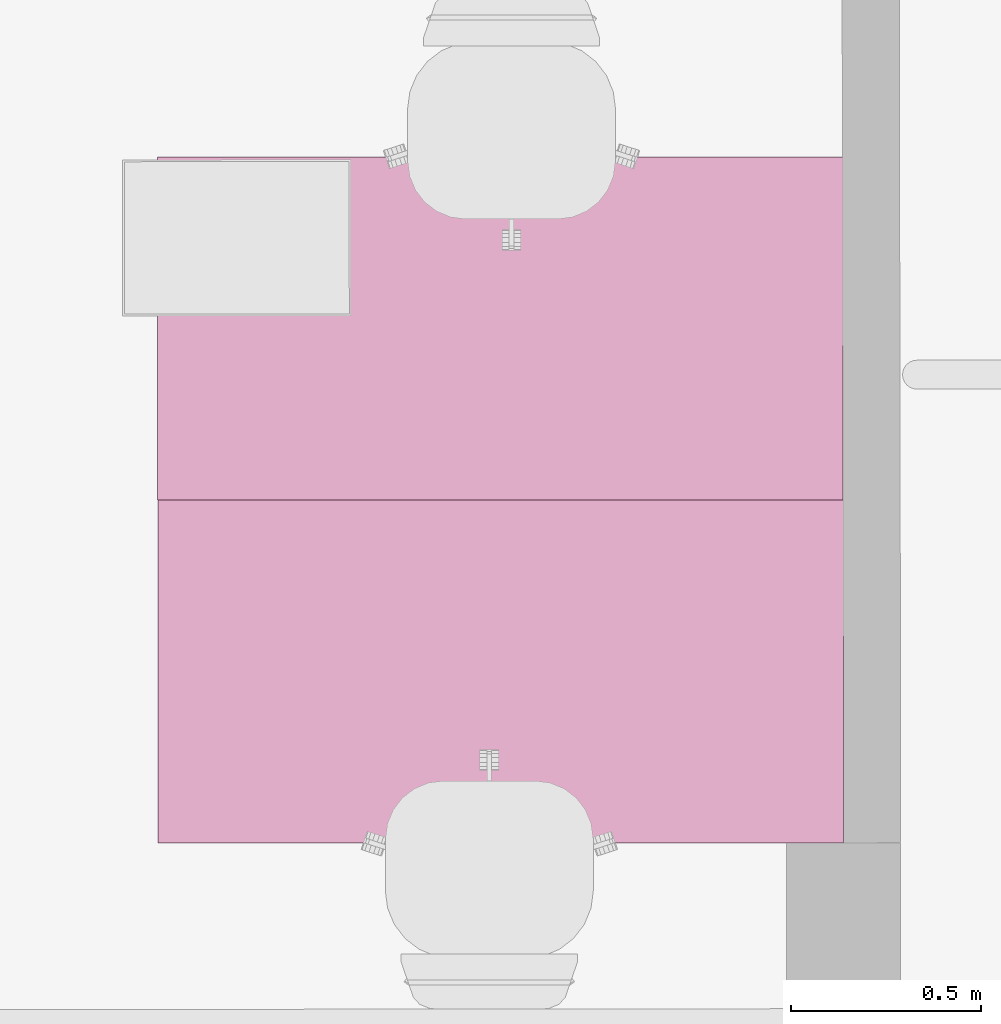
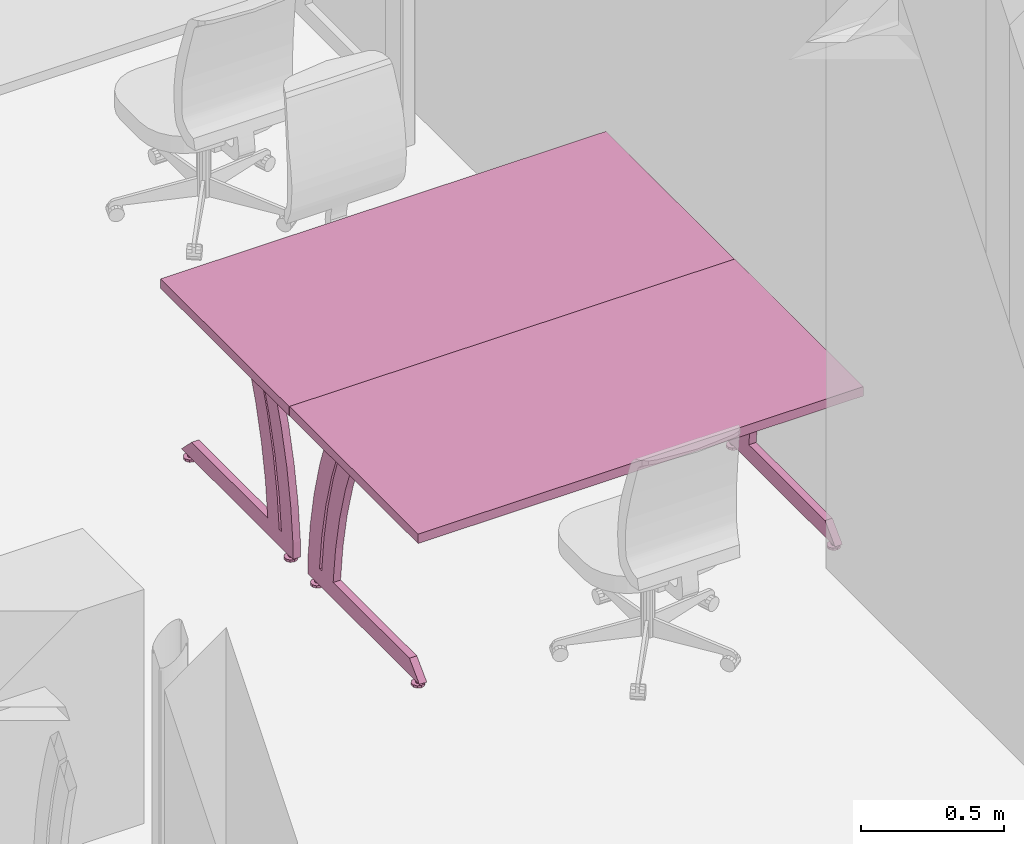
# One storey, part 111 of 128: 2 furnishings.
"""IFC2X3 building model written with IfcOpenShell, lengths in metres."""

from ifc_helpers import new_model, entity, si_unit, converted_unit, derived_unit, direction, frame, origin, place, context, subcontext, project, spatial, faceted_brep, source, transform, mapped, material, type_object, type_shapes, element, save


model = new_model("IFC2X3")

# Units and contexts
model_context = context("Model", 3, precision=1e-05, world=origin(), true_north=direction((6.123031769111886e-17, 1.0)))
body_context = subcontext(model_context, "Body", "Model", "MODEL_VIEW")
ifc_project = project(units=[si_unit("LENGTHUNIT", "METRE"), si_unit("AREAUNIT", "SQUARE_METRE"), converted_unit("PLANEANGLEUNIT", "DEGREE", entity("IfcPlaneAngleMeasure", 0.017453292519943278), si_unit("PLANEANGLEUNIT", "RADIAN"), dimensions=[0, 0, 0, 0, 0, 0, 0]), derived_unit("THERMALTRANSMITTANCEUNIT", [(si_unit("MASSUNIT", "GRAM", prefix="KILO"), 1), (si_unit("THERMODYNAMICTEMPERATUREUNIT", "KELVIN"), -1), (si_unit("TIMEUNIT", "SECOND"), -3)])], contexts=[model_context])

# Site, building, storey
site_placement = place(None, origin())
site = spatial("IfcSite", under=ifc_project, at=site_placement, Name="Default", CompositionType="ELEMENT")
building_placement = place(site_placement, origin())
building = spatial("IfcBuilding", under=site, at=building_placement, CompositionType="ELEMENT")
storey_placement = place(building_placement, origin())
storey = spatial("IfcBuildingStorey", under=building, at=storey_placement, Name="00_RDC CAF", CompositionType="ELEMENT", Elevation=2.4982504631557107e-13)

# Furnishings
ifc_material = material(Name="ARC - Mo - Blanc")
furniture_type = type_object("IfcFurnitureType", Name="Mo_Bureau:Mo_Bureau_1800x900mm", AssemblyPlace="NOTDEFINED", material=ifc_material)
shared_shape = source(origin(), body_context, "Body", "Brep", [
    faceted_brep([(0.05999999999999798, -0.7962325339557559, 0.0), (0.03622358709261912, -0.7885071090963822, 0.0), (0.0407644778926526, -0.7822571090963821, 0.0), (0.045305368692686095, -0.7760071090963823, 0.0), (0.05265268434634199, -0.7736198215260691, 0.0), (0.05999999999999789, -0.7712325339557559, 0.0), (0.0673473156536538, -0.7736198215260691, 0.0), (0.03622358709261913, -0.7962325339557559, 0.0), (0.03622358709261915, -0.8039579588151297, 0.0), (0.040764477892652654, -0.8102079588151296, 0.0), (0.04530536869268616, -0.8164579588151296, 0.0), (0.052652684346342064, -0.8188452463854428, 0.0), (0.05999999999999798, -0.8212325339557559, 0.0), (0.07469463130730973, -0.7760071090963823, 0.0), (0.07923552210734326, -0.7822571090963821, 0.0), (0.08377641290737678, -0.7885071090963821, 0.0), (0.08377641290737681, -0.7962325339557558, 0.0), (0.06734731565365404, -0.8188452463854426, 0.0), (0.07469463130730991, -0.8164579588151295, 0.0), (0.0792355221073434, -0.8102079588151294, 0.0), (0.08377641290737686, -0.8039579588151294, 0.0), (0.05999999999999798, -0.7962325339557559, 0.024999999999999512), (0.059999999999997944, -0.7862325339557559, 0.024999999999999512), (0.05133974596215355, -0.791232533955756, 0.024999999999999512), (0.05133974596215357, -0.801232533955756, 0.024999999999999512), (0.05999999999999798, -0.8062325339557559, 0.024999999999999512), (0.06866025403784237, -0.7912325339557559, 0.024999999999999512), (0.06866025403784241, -0.8012325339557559, 0.024999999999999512), (0.05133974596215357, -0.801232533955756, 0.01000000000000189), (0.05999999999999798, -0.8062325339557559, 0.01000000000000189), (0.05133974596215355, -0.791232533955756, 0.01000000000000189), (0.05999999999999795, -0.7862325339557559, 0.01000000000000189), (0.06866025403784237, -0.7912325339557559, 0.01000000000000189), (0.06866025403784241, -0.8012325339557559, 0.01000000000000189), (0.0599999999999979, -0.7712325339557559, 0.01000000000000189), (0.05554606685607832, -0.77267970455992, 0.01000000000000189), (0.05109213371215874, -0.774126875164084, 0.01000000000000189), (0.045305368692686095, -0.7760071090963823, 0.01000000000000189), (0.0673473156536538, -0.7736198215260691, 0.01000000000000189), (0.07469463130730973, -0.7760071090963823, 0.01000000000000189), (0.07923552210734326, -0.7822571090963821, 0.01000000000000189), (0.08377641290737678, -0.7885071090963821, 0.01000000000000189), (0.08377641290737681, -0.7962325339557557, 0.01000000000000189), (0.08377641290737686, -0.8039579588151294, 0.01000000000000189), (0.0792355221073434, -0.8102079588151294, 0.01000000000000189), (0.07469463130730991, -0.8164579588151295, 0.01000000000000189), (0.0689078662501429, -0.8183381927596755, 0.01000000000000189), (0.06445393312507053, -0.8197853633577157, 0.01000000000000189), (0.05999999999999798, -0.8212325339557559, 0.01000000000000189), (0.052652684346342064, -0.8188452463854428, 0.01000000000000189), (0.04530536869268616, -0.8164579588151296, 0.01000000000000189), (0.03622358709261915, -0.8039579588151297, 0.01000000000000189), (0.040764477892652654, -0.8102079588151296, 0.01000000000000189), (0.04076447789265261, -0.7822571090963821, 0.01000000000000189), (0.03622358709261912, -0.7885071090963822, 0.01000000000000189), (0.03622358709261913, -0.7962325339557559, 0.01000000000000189)], [[[0, 1, 2]], [[0, 2, 3]], [[0, 3, 4]], [[0, 4, 5]], [[0, 5, 6]], [[0, 7, 1]], [[0, 8, 7]], [[0, 9, 8]], [[0, 10, 9]], [[0, 11, 10]], [[0, 12, 11]], [[0, 6, 13]], [[0, 13, 14]], [[0, 14, 15]], [[0, 15, 16]], [[0, 17, 12]], [[0, 18, 17]], [[0, 19, 18]], [[0, 20, 19]], [[0, 16, 20]], [[21, 22, 23]], [[23, 24, 21]], [[24, 25, 21]], [[21, 26, 22]], [[25, 27, 21]], [[26, 21, 27]], [[25, 24, 28, 29]], [[24, 23, 30, 28]], [[23, 22, 31, 30]], [[22, 26, 32, 31]], [[26, 27, 33, 32]], [[27, 25, 29, 33]], [[31, 34, 35]], [[31, 35, 36]], [[31, 36, 37]], [[31, 37, 30]], [[31, 38, 34]], [[31, 39, 38]], [[32, 39, 31]], [[32, 40, 39]], [[32, 41, 40]], [[32, 42, 41]], [[32, 43, 42]], [[32, 33, 43]], [[33, 44, 43]], [[33, 45, 44]], [[33, 29, 45]], [[29, 46, 45]], [[29, 47, 46]], [[29, 48, 47]], [[29, 49, 48]], [[29, 50, 49]], [[29, 28, 50]], [[30, 51, 28]], [[28, 51, 52]], [[28, 52, 50]], [[30, 37, 53]], [[30, 53, 54]], [[30, 54, 55]], [[30, 55, 51]], [[11, 12, 48, 49, 50, 10]], [[8, 9, 10, 50, 52, 51]], [[7, 8, 51, 55, 54, 1]], [[3, 37, 36, 35, 34, 5, 4]], [[54, 53, 37, 3, 2, 1]], [[6, 5, 34, 38, 39, 13]], [[15, 14, 13, 39, 40, 41]], [[16, 15, 41, 42, 43, 20]], [[18, 45, 46, 47, 48, 12, 17]], [[43, 44, 45, 18, 19, 20]]]),
    faceted_brep([(0.05999999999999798, -0.09132706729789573, 0.0), (0.03622358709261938, -0.0836016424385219, 0.0), (0.04076447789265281, -0.07735164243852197, 0.0), (0.04530536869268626, -0.07110164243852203, 0.0), (0.052652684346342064, -0.06871435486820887, 0.0), (0.05999999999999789, -0.06632706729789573, 0.0), (0.06734731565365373, -0.06871435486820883, 0.0), (0.03622358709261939, -0.0913270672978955, 0.0), (0.0362235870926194, -0.09905249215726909, 0.0), (0.04076447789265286, -0.10530249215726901, 0.0), (0.04530536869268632, -0.11155249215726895, 0.0), (0.05265268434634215, -0.11393977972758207, 0.0), (0.05999999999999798, -0.11632706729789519, 0.0), (0.07469463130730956, -0.07110164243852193, 0.0), (0.07923552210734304, -0.07735164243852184, 0.0), (0.08377641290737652, -0.08360164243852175, 0.0), (0.08377641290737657, -0.09132706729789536, 0.0), (0.06734731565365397, -0.113939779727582, 0.0), (0.07469463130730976, -0.11155249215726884, 0.0), (0.07923552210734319, -0.10530249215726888, 0.0), (0.0837764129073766, -0.09905249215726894, 0.0), (0.05999999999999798, -0.09132706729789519, 0.024999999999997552), (0.059999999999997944, -0.0813270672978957, 0.024999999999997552), (0.051339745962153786, -0.08632706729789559, 0.024999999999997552), (0.05133974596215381, -0.09632706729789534, 0.024999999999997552), (0.05999999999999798, -0.10132706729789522, 0.024999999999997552), (0.06866025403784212, -0.08632706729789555, 0.024999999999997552), (0.06866025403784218, -0.09632706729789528, 0.024999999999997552), (0.05133974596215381, -0.09632706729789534, 0.009999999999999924), (0.05999999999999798, -0.10132706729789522, 0.009999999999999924), (0.051339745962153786, -0.08632706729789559, 0.009999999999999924), (0.05999999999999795, -0.0813270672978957, 0.009999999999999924), (0.06866025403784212, -0.08632706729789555, 0.009999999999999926), (0.06866025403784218, -0.09632706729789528, 0.009999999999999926), (0.05999999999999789, -0.06632706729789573, 0.009999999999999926), (0.055546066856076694, -0.06777423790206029, 0.009999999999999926), (0.051092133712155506, -0.06922140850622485, 0.009999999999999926), (0.04530536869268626, -0.07110164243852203, 0.009999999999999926), (0.06734731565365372, -0.06871435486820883, 0.009999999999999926), (0.07469463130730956, -0.07110164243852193, 0.009999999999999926), (0.07923552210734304, -0.07735164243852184, 0.009999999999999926), (0.08377641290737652, -0.08360164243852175, 0.009999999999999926), (0.08377641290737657, -0.09132706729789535, 0.009999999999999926), (0.0837764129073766, -0.09905249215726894, 0.009999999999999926), (0.07923552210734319, -0.10530249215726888, 0.009999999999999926), (0.07469463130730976, -0.11155249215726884, 0.009999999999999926), (0.06890786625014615, -0.11343272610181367, 0.009999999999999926), (0.06445393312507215, -0.11487989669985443, 0.009999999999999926), (0.05999999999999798, -0.11632706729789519, 0.009999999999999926), (0.05265268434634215, -0.11393977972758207, 0.009999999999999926), (0.04530536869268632, -0.11155249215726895, 0.009999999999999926), (0.0362235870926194, -0.09905249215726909, 0.009999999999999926), (0.04076447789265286, -0.10530249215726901, 0.009999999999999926), (0.04076447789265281, -0.07735164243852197, 0.009999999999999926), (0.03622358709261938, -0.0836016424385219, 0.009999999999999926), (0.03622358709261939, -0.0913270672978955, 0.009999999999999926)], [[[0, 1, 2]], [[0, 2, 3]], [[0, 3, 4]], [[0, 4, 5]], [[0, 5, 6]], [[0, 7, 1]], [[0, 8, 7]], [[0, 9, 8]], [[0, 10, 9]], [[0, 11, 10]], [[0, 12, 11]], [[0, 6, 13]], [[0, 13, 14]], [[0, 14, 15]], [[0, 15, 16]], [[0, 17, 12]], [[0, 18, 17]], [[0, 19, 18]], [[0, 20, 19]], [[0, 16, 20]], [[21, 22, 23]], [[23, 24, 21]], [[24, 25, 21]], [[21, 26, 22]], [[25, 27, 21]], [[26, 21, 27]], [[25, 24, 28, 29]], [[24, 23, 30, 28]], [[23, 22, 31, 30]], [[22, 26, 32, 31]], [[26, 27, 33, 32]], [[27, 25, 29, 33]], [[31, 34, 35]], [[31, 35, 36]], [[31, 36, 37]], [[31, 37, 30]], [[31, 38, 34]], [[31, 39, 38]], [[32, 39, 31]], [[32, 40, 39]], [[32, 41, 40]], [[32, 42, 41]], [[32, 43, 42]], [[32, 33, 43]], [[33, 44, 43]], [[33, 45, 44]], [[33, 29, 45]], [[29, 46, 45]], [[29, 47, 46]], [[29, 48, 47]], [[29, 49, 48]], [[29, 50, 49]], [[29, 28, 50]], [[30, 51, 28]], [[28, 51, 52]], [[28, 52, 50]], [[30, 37, 53]], [[30, 53, 54]], [[30, 54, 55]], [[30, 55, 51]], [[11, 12, 48, 49, 50, 10]], [[8, 9, 10, 50, 52, 51]], [[7, 8, 51, 55, 54, 1]], [[3, 37, 36, 35, 34, 5, 4]], [[54, 53, 37, 3, 2, 1]], [[6, 5, 34, 38, 39, 13]], [[15, 14, 13, 39, 40, 41]], [[16, 15, 41, 42, 43, 20]], [[18, 45, 46, 47, 48, 12, 17]], [[43, 44, 45, 18, 19, 20]]]),
    faceted_brep([(0.04499999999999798, -0.22742160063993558, 0.0950000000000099), (0.04499999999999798, -0.24409269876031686, 0.24614112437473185), (0.04499999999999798, -0.27271442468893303, 0.3954808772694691), (0.04499999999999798, -0.3131059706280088, 0.5420758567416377), (0.04499999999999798, -0.3650121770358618, 0.6849999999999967), (0.04499999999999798, -0.2788721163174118, 0.6849999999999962), (0.04499999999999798, -0.2291924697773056, 0.5416912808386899), (0.04499999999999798, -0.1905543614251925, 0.39501969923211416), (0.04499999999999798, -0.16318154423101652, 0.245834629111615), (0.04499999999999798, -0.14723253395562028, 0.09500000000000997), (0.07499999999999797, -0.3650121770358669, 0.6850000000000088), (0.07499999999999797, -0.3131059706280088, 0.5420758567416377), (0.07499999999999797, -0.27271442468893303, 0.3954808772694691), (0.07499999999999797, -0.24409269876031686, 0.24614112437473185), (0.07499999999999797, -0.22742160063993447, 0.09499999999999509), (0.07499999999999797, -0.14723253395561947, 0.0949999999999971), (0.07499999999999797, -0.16318154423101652, 0.245834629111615), (0.07499999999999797, -0.1905543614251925, 0.39501969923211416), (0.07499999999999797, -0.2291924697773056, 0.5416912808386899), (0.07499999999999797, -0.27887211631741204, 0.6849999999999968)], [[[0, 1, 2, 3, 4, 5, 6, 7, 8, 9]], [[10, 11, 12, 13, 14, 15, 16, 17, 18, 19]], [[10, 19, 5, 4]], [[3, 11, 10, 4]], [[2, 12, 11, 3]], [[0, 14, 13, 1]], [[12, 2, 1, 13]], [[15, 14, 0, 9]], [[8, 7, 17, 16]], [[15, 9, 8, 16]], [[6, 5, 19, 18]], [[6, 18, 17, 7]]]),
    faceted_brep([(0.04499999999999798, -0.13142160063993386, 0.09500000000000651), (0.04499999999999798, -0.14809269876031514, 0.24614112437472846), (0.04499999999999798, -0.1767144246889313, 0.39548087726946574), (0.04499999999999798, -0.21710597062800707, 0.5420758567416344), (0.04499999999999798, -0.26901217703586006, 0.6849999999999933), (0.04499999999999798, -0.18287211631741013, 0.6849999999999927), (0.04499999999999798, -0.13319246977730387, 0.5416912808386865), (0.04499999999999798, -0.09455436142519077, 0.3950196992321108), (0.04499999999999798, -0.0671815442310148, 0.2458346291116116), (0.04499999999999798, -0.05123253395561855, 0.09500000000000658), (0.07499999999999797, -0.2690121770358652, 0.6850000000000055), (0.07499999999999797, -0.21710597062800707, 0.5420758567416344), (0.07499999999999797, -0.1767144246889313, 0.39548087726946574), (0.07499999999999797, -0.14809269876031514, 0.24614112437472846), (0.07499999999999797, -0.1314216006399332, 0.09499999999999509), (0.07499999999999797, -0.05123253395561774, 0.09499999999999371), (0.07499999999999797, -0.0671815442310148, 0.2458346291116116), (0.07499999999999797, -0.09455436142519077, 0.3950196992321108), (0.07499999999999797, -0.13319246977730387, 0.5416912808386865), (0.07499999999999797, -0.18287211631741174, 0.684999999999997)], [[[0, 1, 2, 3, 4, 5, 6, 7, 8, 9]], [[10, 11, 12, 13, 14, 15, 16, 17, 18, 19]], [[10, 19, 5, 4]], [[3, 11, 10, 4]], [[2, 12, 11, 3]], [[0, 14, 13, 1]], [[12, 2, 1, 13]], [[15, 14, 0, 9]], [[8, 7, 17, 16]], [[15, 9, 8, 16]], [[6, 5, 19, 18]], [[6, 18, 17, 7]]]),
    faceted_brep([(0.04499999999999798, -0.0512325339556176, 0.0249999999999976), (0.04499999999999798, -0.8312325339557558, 0.0249999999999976), (0.04499999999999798, -0.7612325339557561, 0.09499999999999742), (0.04499999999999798, -0.05123253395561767, 0.09499999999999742), (0.07499999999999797, -0.0512325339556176, 0.0249999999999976), (0.07499999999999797, -0.05123253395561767, 0.09499999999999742), (0.07499999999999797, -0.7612325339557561, 0.09499999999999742), (0.07499999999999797, -0.8312325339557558, 0.0249999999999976)], [[[0, 1, 2, 3]], [[4, 5, 6, 7]], [[5, 4, 0, 3]], [[6, 5, 3, 2]], [[4, 7, 1, 0]], [[7, 6, 2, 1]]]),
    faceted_brep([(1.7399999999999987, -0.7962325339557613, 0.0), (1.71622358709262, -0.7885071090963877, 0.0), (1.7207644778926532, -0.7822571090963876, 0.0), (1.7253053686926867, -0.7760071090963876, 0.0), (1.7326526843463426, -0.7736198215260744, 0.0), (1.7399999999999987, -0.7712325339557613, 0.0), (1.7473473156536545, -0.7736198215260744, 0.0), (1.71622358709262, -0.7962325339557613, 0.0), (1.71622358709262, -0.803957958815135, 0.0), (1.7207644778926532, -0.8102079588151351, 0.0), (1.725305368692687, -0.816457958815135, 0.0), (1.7326526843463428, -0.8188452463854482, 0.0), (1.7399999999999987, -0.8212325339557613, 0.0), (1.7546946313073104, -0.7760071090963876, 0.0), (1.759235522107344, -0.7822571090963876, 0.0), (1.7637764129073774, -0.7885071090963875, 0.0), (1.7637764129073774, -0.7962325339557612, 0.0), (1.7473473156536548, -0.8188452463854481, 0.0), (1.7546946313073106, -0.8164579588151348, 0.0), (1.759235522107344, -0.8102079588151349, 0.0), (1.7637764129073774, -0.8039579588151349, 0.0), (1.7399999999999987, -0.7962325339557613, 0.024999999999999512), (1.7399999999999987, -0.7862325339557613, 0.024999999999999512), (1.731339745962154, -0.7912325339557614, 0.024999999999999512), (1.731339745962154, -0.8012325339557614, 0.024999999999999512), (1.7399999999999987, -0.8062325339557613, 0.024999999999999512), (1.748660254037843, -0.7912325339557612, 0.024999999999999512), (1.748660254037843, -0.8012325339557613, 0.024999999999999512), (1.731339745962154, -0.8012325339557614, 0.01000000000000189), (1.7399999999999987, -0.8062325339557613, 0.01000000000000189), (1.731339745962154, -0.7912325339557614, 0.01000000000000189), (1.7399999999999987, -0.7862325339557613, 0.01000000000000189), (1.748660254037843, -0.7912325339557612, 0.01000000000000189), (1.748660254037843, -0.8012325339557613, 0.01000000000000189), (1.7399999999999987, -0.7712325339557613, 0.01000000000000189), (1.735546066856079, -0.7726797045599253, 0.01000000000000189), (1.7310921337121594, -0.7741268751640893, 0.01000000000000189), (1.7253053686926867, -0.7760071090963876, 0.01000000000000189), (1.7473473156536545, -0.7736198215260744, 0.01000000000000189), (1.7546946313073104, -0.7760071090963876, 0.01000000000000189), (1.759235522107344, -0.7822571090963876, 0.01000000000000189), (1.7637764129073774, -0.7885071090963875, 0.01000000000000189), (1.7637764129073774, -0.7962325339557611, 0.01000000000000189), (1.7637764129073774, -0.8039579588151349, 0.01000000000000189), (1.759235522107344, -0.8102079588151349, 0.01000000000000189), (1.7546946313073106, -0.8164579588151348, 0.01000000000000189), (1.7489078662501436, -0.8183381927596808, 0.01000000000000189), (1.744453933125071, -0.8197853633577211, 0.01000000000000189), (1.7399999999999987, -0.8212325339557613, 0.01000000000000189), (1.7326526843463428, -0.8188452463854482, 0.01000000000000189), (1.725305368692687, -0.816457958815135, 0.01000000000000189), (1.71622358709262, -0.803957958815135, 0.01000000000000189), (1.7207644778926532, -0.8102079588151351, 0.01000000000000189), (1.7207644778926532, -0.7822571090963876, 0.01000000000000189), (1.71622358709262, -0.7885071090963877, 0.01000000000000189), (1.71622358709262, -0.7962325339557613, 0.01000000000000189)], [[[0, 1, 2]], [[0, 2, 3]], [[0, 3, 4]], [[0, 4, 5]], [[0, 5, 6]], [[0, 7, 1]], [[0, 8, 7]], [[0, 9, 8]], [[0, 10, 9]], [[0, 11, 10]], [[0, 12, 11]], [[0, 6, 13]], [[0, 13, 14]], [[0, 14, 15]], [[0, 15, 16]], [[0, 17, 12]], [[0, 18, 17]], [[0, 19, 18]], [[0, 20, 19]], [[0, 16, 20]], [[21, 22, 23]], [[23, 24, 21]], [[24, 25, 21]], [[21, 26, 22]], [[25, 27, 21]], [[26, 21, 27]], [[25, 24, 28, 29]], [[24, 23, 30, 28]], [[23, 22, 31, 30]], [[22, 26, 32, 31]], [[26, 27, 33, 32]], [[27, 25, 29, 33]], [[31, 34, 35]], [[31, 35, 36]], [[31, 36, 37]], [[31, 37, 30]], [[31, 38, 34]], [[31, 39, 38]], [[32, 39, 31]], [[32, 40, 39]], [[32, 41, 40]], [[32, 42, 41]], [[32, 43, 42]], [[32, 33, 43]], [[33, 44, 43]], [[33, 45, 44]], [[33, 29, 45]], [[29, 46, 45]], [[29, 47, 46]], [[29, 48, 47]], [[29, 49, 48]], [[29, 50, 49]], [[29, 28, 50]], [[30, 51, 28]], [[28, 51, 52]], [[28, 52, 50]], [[30, 37, 53]], [[30, 53, 54]], [[30, 54, 55]], [[30, 55, 51]], [[11, 12, 48, 49, 50, 10]], [[8, 9, 10, 50, 52, 51]], [[7, 8, 51, 55, 54, 1]], [[3, 37, 36, 35, 34, 5, 4]], [[54, 53, 37, 3, 2, 1]], [[6, 5, 34, 38, 39, 13]], [[15, 14, 13, 39, 40, 41]], [[16, 15, 41, 42, 43, 20]], [[18, 45, 46, 47, 48, 12, 17]], [[43, 44, 45, 18, 19, 20]]]),
    faceted_brep([(1.7399999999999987, -0.09132706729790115, 0.0), (1.7162235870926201, -0.08360164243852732, 0.0), (1.7207644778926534, -0.07735164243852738, 0.0), (1.725305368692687, -0.07110164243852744, 0.0), (1.7326526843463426, -0.06871435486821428, 0.0), (1.7399999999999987, -0.06632706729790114, 0.0), (1.7473473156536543, -0.06871435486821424, 0.0), (1.7162235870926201, -0.09132706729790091, 0.0), (1.7162235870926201, -0.0990524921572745, 0.0), (1.7207644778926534, -0.10530249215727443, 0.0), (1.725305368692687, -0.11155249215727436, 0.0), (1.7326526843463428, -0.11393977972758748, 0.0), (1.7399999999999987, -0.1163270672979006, 0.0), (1.7546946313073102, -0.07110164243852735, 0.0), (1.7592355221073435, -0.07735164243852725, 0.0), (1.7637764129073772, -0.08360164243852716, 0.0), (1.7637764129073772, -0.09132706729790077, 0.0), (1.7473473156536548, -0.11393977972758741, 0.0), (1.7546946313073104, -0.11155249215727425, 0.0), (1.7592355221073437, -0.10530249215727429, 0.0), (1.7637764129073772, -0.09905249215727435, 0.0), (1.7399999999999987, -0.0913270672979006, 0.024999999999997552), (1.7399999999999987, -0.08132706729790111, 0.024999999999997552), (1.7313397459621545, -0.08632706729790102, 0.024999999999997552), (1.7313397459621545, -0.09632706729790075, 0.024999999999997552), (1.7399999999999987, -0.10132706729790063, 0.024999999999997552), (1.7486602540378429, -0.08632706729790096, 0.024999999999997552), (1.7486602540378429, -0.0963270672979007, 0.024999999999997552), (1.7313397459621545, -0.09632706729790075, 0.009999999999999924), (1.7399999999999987, -0.10132706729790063, 0.009999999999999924), (1.7313397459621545, -0.08632706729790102, 0.009999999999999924), (1.7399999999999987, -0.08132706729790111, 0.009999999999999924), (1.7486602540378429, -0.08632706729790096, 0.009999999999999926), (1.7486602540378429, -0.0963270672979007, 0.009999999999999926), (1.7399999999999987, -0.06632706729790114, 0.009999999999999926), (1.7355460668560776, -0.0677742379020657, 0.009999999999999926), (1.7310921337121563, -0.06922140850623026, 0.009999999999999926), (1.725305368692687, -0.07110164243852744, 0.009999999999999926), (1.7473473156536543, -0.06871435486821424, 0.009999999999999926), (1.7546946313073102, -0.07110164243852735, 0.009999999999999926), (1.7592355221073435, -0.07735164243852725, 0.009999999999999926), (1.7637764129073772, -0.08360164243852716, 0.009999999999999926), (1.7637764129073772, -0.09132706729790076, 0.009999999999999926), (1.7637764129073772, -0.09905249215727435, 0.009999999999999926), (1.7592355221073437, -0.10530249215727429, 0.009999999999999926), (1.7546946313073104, -0.11155249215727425, 0.009999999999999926), (1.7489078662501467, -0.11343272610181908, 0.009999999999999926), (1.7444539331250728, -0.11487989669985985, 0.009999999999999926), (1.7399999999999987, -0.1163270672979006, 0.009999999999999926), (1.7326526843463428, -0.11393977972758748, 0.009999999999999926), (1.725305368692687, -0.11155249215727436, 0.009999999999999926), (1.7162235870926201, -0.0990524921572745, 0.009999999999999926), (1.7207644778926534, -0.10530249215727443, 0.009999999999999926), (1.7207644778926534, -0.07735164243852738, 0.009999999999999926), (1.7162235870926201, -0.08360164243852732, 0.009999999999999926), (1.7162235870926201, -0.09132706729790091, 0.009999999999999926)], [[[0, 1, 2]], [[0, 2, 3]], [[0, 3, 4]], [[0, 4, 5]], [[0, 5, 6]], [[0, 7, 1]], [[0, 8, 7]], [[0, 9, 8]], [[0, 10, 9]], [[0, 11, 10]], [[0, 12, 11]], [[0, 6, 13]], [[0, 13, 14]], [[0, 14, 15]], [[0, 15, 16]], [[0, 17, 12]], [[0, 18, 17]], [[0, 19, 18]], [[0, 20, 19]], [[0, 16, 20]], [[21, 22, 23]], [[23, 24, 21]], [[24, 25, 21]], [[21, 26, 22]], [[25, 27, 21]], [[26, 21, 27]], [[25, 24, 28, 29]], [[24, 23, 30, 28]], [[23, 22, 31, 30]], [[22, 26, 32, 31]], [[26, 27, 33, 32]], [[27, 25, 29, 33]], [[31, 34, 35]], [[31, 35, 36]], [[31, 36, 37]], [[31, 37, 30]], [[31, 38, 34]], [[31, 39, 38]], [[32, 39, 31]], [[32, 40, 39]], [[32, 41, 40]], [[32, 42, 41]], [[32, 43, 42]], [[32, 33, 43]], [[33, 44, 43]], [[33, 45, 44]], [[33, 29, 45]], [[29, 46, 45]], [[29, 47, 46]], [[29, 48, 47]], [[29, 49, 48]], [[29, 50, 49]], [[29, 28, 50]], [[30, 51, 28]], [[28, 51, 52]], [[28, 52, 50]], [[30, 37, 53]], [[30, 53, 54]], [[30, 54, 55]], [[30, 55, 51]], [[11, 12, 48, 49, 50, 10]], [[8, 9, 10, 50, 52, 51]], [[7, 8, 51, 55, 54, 1]], [[3, 37, 36, 35, 34, 5, 4]], [[54, 53, 37, 3, 2, 1]], [[6, 5, 34, 38, 39, 13]], [[15, 14, 13, 39, 40, 41]], [[16, 15, 41, 42, 43, 20]], [[18, 45, 46, 47, 48, 12, 17]], [[43, 44, 45, 18, 19, 20]]]),
    faceted_brep([(1.7249999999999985, -0.22742160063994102, 0.0950000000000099), (1.7249999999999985, -0.24409269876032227, 0.24614112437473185), (1.7249999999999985, -0.2727144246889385, 0.3954808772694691), (1.7249999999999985, -0.3131059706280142, 0.5420758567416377), (1.7249999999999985, -0.3650121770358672, 0.6849999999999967), (1.7249999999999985, -0.27887211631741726, 0.6849999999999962), (1.7249999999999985, -0.229192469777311, 0.5416912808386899), (1.7249999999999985, -0.1905543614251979, 0.39501969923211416), (1.7249999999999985, -0.16318154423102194, 0.245834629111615), (1.7249999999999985, -0.1472325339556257, 0.09500000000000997), (1.7549999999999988, -0.36501217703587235, 0.6850000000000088), (1.7549999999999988, -0.3131059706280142, 0.5420758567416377), (1.7549999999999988, -0.2727144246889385, 0.3954808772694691), (1.7549999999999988, -0.24409269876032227, 0.24614112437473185), (1.7549999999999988, -0.22742160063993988, 0.09499999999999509), (1.7549999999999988, -0.14723253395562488, 0.0949999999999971), (1.7549999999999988, -0.16318154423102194, 0.245834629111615), (1.7549999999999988, -0.1905543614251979, 0.39501969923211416), (1.7549999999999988, -0.229192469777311, 0.5416912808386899), (1.7549999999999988, -0.2788721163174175, 0.6849999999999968)], [[[0, 1, 2, 3, 4, 5, 6, 7, 8, 9]], [[10, 11, 12, 13, 14, 15, 16, 17, 18, 19]], [[10, 19, 5, 4]], [[3, 11, 10, 4]], [[2, 12, 11, 3]], [[0, 14, 13, 1]], [[12, 2, 1, 13]], [[15, 14, 0, 9]], [[8, 7, 17, 16]], [[15, 9, 8, 16]], [[6, 5, 19, 18]], [[6, 18, 17, 7]]]),
    faceted_brep([(1.7249999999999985, -0.13142160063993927, 0.09500000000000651), (1.7249999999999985, -0.14809269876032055, 0.24614112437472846), (1.7249999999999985, -0.17671442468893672, 0.39548087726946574), (1.7249999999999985, -0.2171059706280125, 0.5420758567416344), (1.7249999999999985, -0.2690121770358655, 0.6849999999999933), (1.7249999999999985, -0.18287211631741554, 0.6849999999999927), (1.7249999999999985, -0.13319246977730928, 0.5416912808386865), (1.7249999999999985, -0.09455436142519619, 0.3950196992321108), (1.7249999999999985, -0.06718154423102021, 0.2458346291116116), (1.7249999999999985, -0.051232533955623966, 0.09500000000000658), (1.7549999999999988, -0.2690121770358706, 0.6850000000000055), (1.7549999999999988, -0.2171059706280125, 0.5420758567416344), (1.7549999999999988, -0.17671442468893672, 0.39548087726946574), (1.7549999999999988, -0.14809269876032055, 0.24614112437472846), (1.7549999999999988, -0.1314216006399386, 0.09499999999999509), (1.7549999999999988, -0.051232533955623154, 0.09499999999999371), (1.7549999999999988, -0.06718154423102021, 0.2458346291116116), (1.7549999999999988, -0.09455436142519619, 0.3950196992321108), (1.7549999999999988, -0.13319246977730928, 0.5416912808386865), (1.7549999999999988, -0.18287211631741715, 0.684999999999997)], [[[0, 1, 2, 3, 4, 5, 6, 7, 8, 9]], [[10, 11, 12, 13, 14, 15, 16, 17, 18, 19]], [[10, 19, 5, 4]], [[3, 11, 10, 4]], [[2, 12, 11, 3]], [[0, 14, 13, 1]], [[12, 2, 1, 13]], [[15, 14, 0, 9]], [[8, 7, 17, 16]], [[15, 9, 8, 16]], [[6, 5, 19, 18]], [[6, 18, 17, 7]]]),
    faceted_brep([(1.7249999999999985, -0.051232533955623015, 0.0249999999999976), (1.7249999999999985, -0.8312325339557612, 0.0249999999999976), (1.7249999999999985, -0.7612325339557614, 0.09499999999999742), (1.7249999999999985, -0.051232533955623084, 0.09499999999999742), (1.7549999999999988, -0.051232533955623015, 0.0249999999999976), (1.7549999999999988, -0.051232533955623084, 0.09499999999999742), (1.7549999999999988, -0.7612325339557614, 0.09499999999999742), (1.7549999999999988, -0.8312325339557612, 0.0249999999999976)], [[[0, 1, 2, 3]], [[4, 5, 6, 7]], [[5, 4, 0, 3]], [[6, 5, 3, 2]], [[4, 7, 1, 0]], [[7, 6, 2, 1]]]),
    faceted_brep([(0.0, -0.8999999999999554, 0.685), (0.0, 0.0, 0.685), (1.7999999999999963, 0.0, 0.6849999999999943), (1.7999999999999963, -0.8999999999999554, 0.6849999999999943), (0.0, -0.8999999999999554, 0.7250000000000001), (1.7999999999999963, -0.8999999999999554, 0.7249999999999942), (1.7999999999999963, 0.0, 0.7249999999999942), (0.0, 0.0, 0.7250000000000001)], [[[0, 1, 2, 3]], [[4, 5, 6, 7]], [[5, 4, 0, 3]], [[6, 5, 3, 2]], [[7, 6, 2, 1]], [[4, 7, 1, 0]]]),
])
type_shapes(furniture_type, [shared_shape])
furnishing_1_placement = place(storey_placement, frame((43.894570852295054, 131.5664523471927, 0.0)))
element("IfcFurnishingElement", 1, at=furnishing_1_placement, inside=storey, type_object=furniture_type, material=ifc_material, Name="Mo_Bureau:Mo_Bureau_1800x900mm", ObjectType="Mo_Bureau:Mo_Bureau_1800x900mm", context=body_context, shape_type="MappedRepresentation", body=[
    mapped(shared_shape, transform((0.0, 0.0, 0.0), scale=1.0)),
])
furnishing_2_placement = place(storey_placement, frame((45.69295571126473, 131.5664523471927, 0.0), z_axis=(0.0, 0.0, 1.0), x_axis=(-1.0, 0.0, 0.0)))
element("IfcFurnishingElement", 2, at=furnishing_2_placement, inside=storey, type_object=furniture_type, material=ifc_material, Name="Mo_Bureau:Mo_Bureau_1800x900mm", ObjectType="Mo_Bureau:Mo_Bureau_1800x900mm", context=body_context, shape_type="MappedRepresentation", body=[
    mapped(shared_shape, transform((0.0, 0.0, 0.0), scale=1.0)),
])

save(model, "model.ifc")
